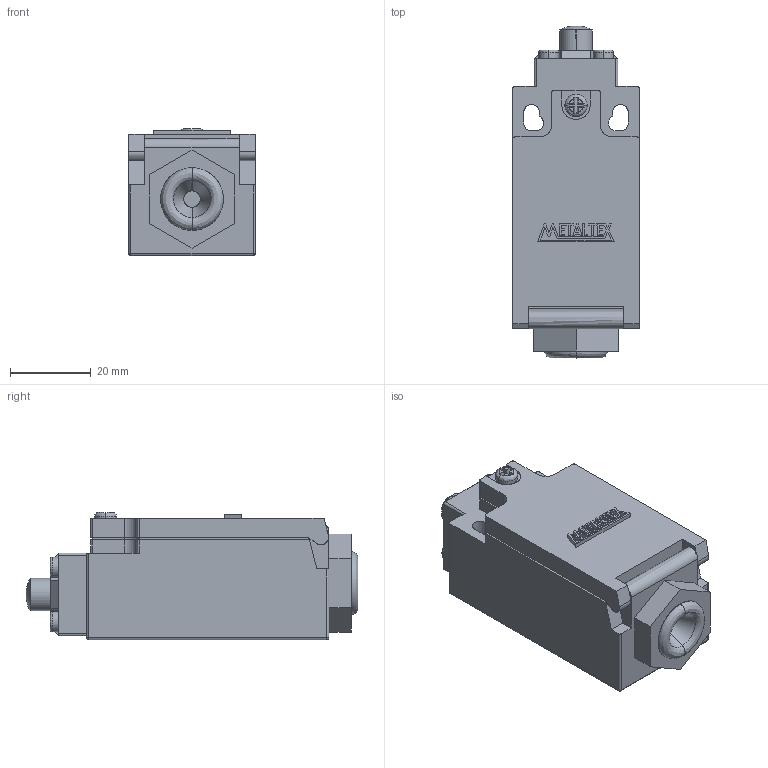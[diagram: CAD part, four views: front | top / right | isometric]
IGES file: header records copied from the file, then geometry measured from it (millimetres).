
Start section: SolidWorks IGES file using analytic representation for surfaces
Global section: file name: D:\X - Arquivos\PROEX\Empresas\P11 - METALTEX\01 - Produtos\IGES\4ª remessa\5ª etapa\FM9211.IGS; native system: SolidWorks 2012; preprocessor: SolidWorks 2012; author: Usuario; date: 180601.135839; units: millimetre
Bounding box: 31.3 x 82.19 x 31.5 mm (x, y, z)
Surface area: 12011.7 mm2 (no closed solid volume)
Topology: 0 solids, 0 shells, 341 faces, 2666 edges, 2662 vertices
Faces by surface type: bspline 272, revolution 69
